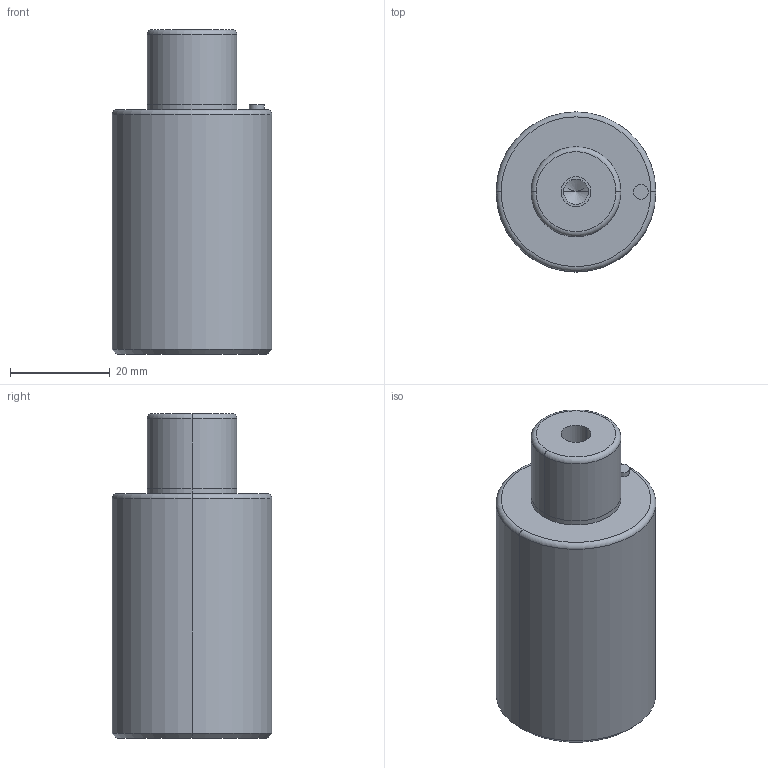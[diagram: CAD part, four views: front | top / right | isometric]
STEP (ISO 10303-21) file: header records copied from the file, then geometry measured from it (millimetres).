
FILE_DESCRIPTION(/* description */ (''),/* implementation_level */ '2;1');
FILE_NAME(/* name */ '3d_gsc32-15_03815_r00.stp',/* time_stamp */ '2011-01-10T14:15:22+09:00',/* author */ ('MISUMI'),/* organization */ (''),/* preprocessor_version */ 'ST-DEVELOPER v11',/* originating_system */ 'UGS - NX 5.0',/* authorisation */ '');
FILE_SCHEMA (('CONFIG_CONTROL_DESIGN'));
Length unit declared in the file: millimetre
Products named in the file (1): 3d_gsc32-15_03815_r00
Bounding box: 32 x 32 x 65 mm (x, y, z)
Volume: 42815.3 mm3; surface area: 7722.1 mm2
Topology: 1 solids, 1 shells, 32 faces, 66 edges, 38 vertices
Faces by surface type: cylinder 16, cone 6, plane 6, torus 4
Entity records: 912 total; most frequent: DIRECTION 168, CARTESIAN_POINT 133, ORIENTED_EDGE 124, AXIS2_PLACEMENT_3D 73, EDGE_CURVE 62, CIRCLE 40, EDGE_LOOP 38, VERTEX_POINT 38
